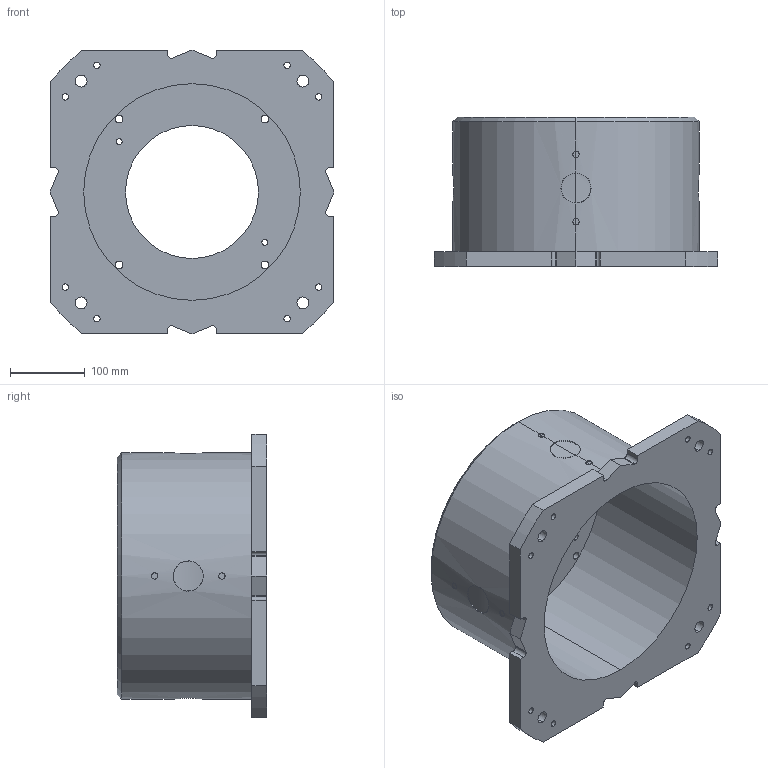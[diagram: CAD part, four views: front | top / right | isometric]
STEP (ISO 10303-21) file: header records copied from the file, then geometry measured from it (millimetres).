
FILE_DESCRIPTION (( 'STEP AP214' ), '1' );
FILE_NAME ('E-200.STEP', '2025-12-05T12:37:43', ( '' ), ( '' ), 'SwSTEP 2.0', 'SolidWorks 2022', '' );
FILE_SCHEMA (( 'AUTOMOTIVE_DESIGN' ));
Length unit declared in the file: millimetre
Products named in the file (1): E-200
Bounding box: 380 x 200 x 380 mm (x, y, z)
Volume: 5655415.1 mm3; surface area: 626617.3 mm2
Topology: 1 solids, 1 shells, 131 faces, 361 edges, 240 vertices
Faces by surface type: cylinder 93, plane 28, bspline 8, cone 2
Entity records: 7560 total; most frequent: CARTESIAN_POINT 3677, ORIENTED_EDGE 722, DIRECTION 661, EDGE_CURVE 361, AXIS2_PLACEMENT_3D 250, VERTEX_POINT 240, EDGE_LOOP 177, LINE 161
